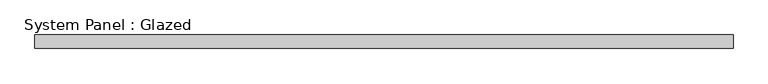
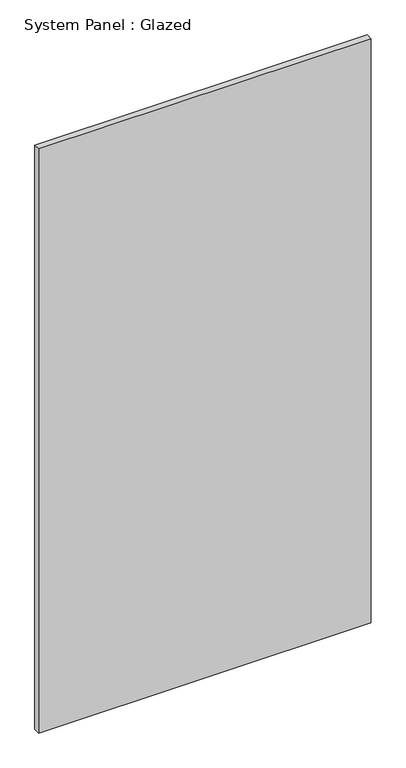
"""IFC4 building model written with IfcOpenShell, lengths in millimetres: plate geometry, System Panel : Glazed."""

from ifc_helpers import new_model, si_unit, origin, origin_with_axes, place, context, project, spatial, polyline, outline, extrude, source, transform, mapped, element, save


def system_panel_glazed_080bd1f7(model_context):
    return source(origin(), model_context, "Body", "SweptSolid", [
        extrude(outline(polyline([(656.4135118, -44.45), (-656.4135118, -44.45), (-656.4135118, -19.05), (656.4135118, -19.05), (656.4135118, -44.45)])), origin_with_axes(), (0.0, 0.0, 1.0), 2438.4),
    ])


if __name__ == "__main__":
    model = new_model("IFC4")
    model_context = context("Model", 3, world=origin())
    ifc_project = project(units=[si_unit("LENGTHUNIT", "METRE", prefix="MILLI")], contexts=[model_context])
    site = spatial("IfcSite", under=ifc_project)
    building = spatial("IfcBuilding", under=site)
    placement = place(None, origin())
    system_panel_glazed_shape = system_panel_glazed_080bd1f7(model_context)
    element("IfcPlate", 1, ObjectType="System Panel : Glazed", at=placement, inside=building, context=model_context, shape_type="MappedRepresentation", body=[
        mapped(system_panel_glazed_shape, transform((0.0, 0.0, 0.0), x_axis=(1.0, 0.0, 0.0), y_axis=(0.0, 1.0, 0.0), z_axis=(0.0, 0.0, 1.0))),
    ])
    save(model, "model.ifc")
